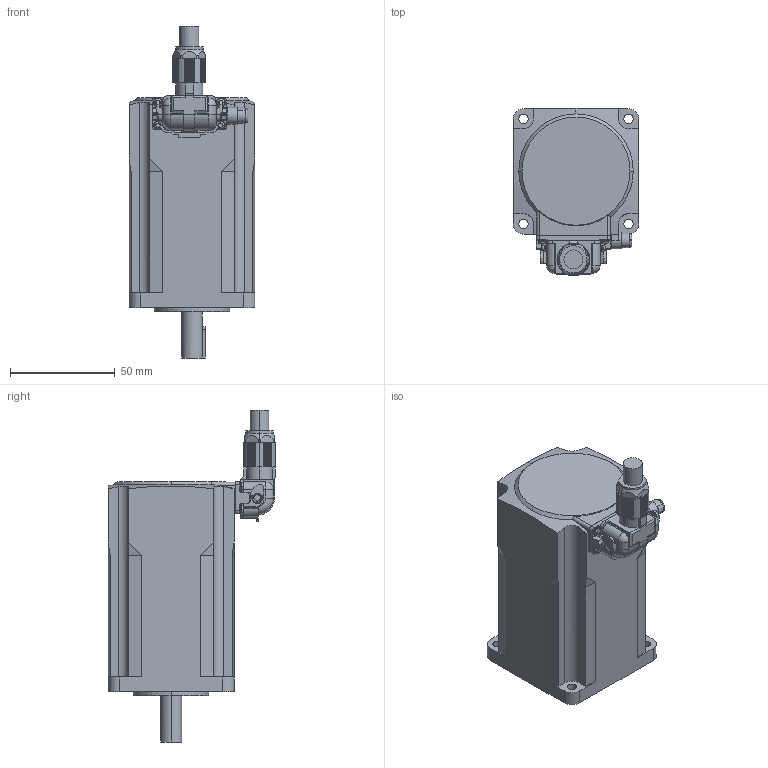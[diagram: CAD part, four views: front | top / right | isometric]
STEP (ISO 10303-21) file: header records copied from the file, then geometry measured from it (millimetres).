
FILE_DESCRIPTION (( 'STEP AP203' ), '1' );
FILE_NAME ('B1535_B.STEP', '2021-04-22T05:29:01', ( 'Windows ユーザー' ), ( '' ), 'SwSTEP 2.0', 'SolidWorks 2017', '' );
FILE_SCHEMA (( 'CONFIG_CONTROL_DESIGN' ));
Length unit declared in the file: millimetre
Products named in the file (1): B1535_B
Bounding box: 60 x 79.9 x 158.1 mm (x, y, z)
Volume: 339498.5 mm3; surface area: 35488.5 mm2
Topology: 1 solids, 1 shells, 585 faces, 1641 edges, 1069 vertices
Faces by surface type: plane 346, cylinder 210, torus 13, cone 12, sphere 4
Entity records: 19184 total; most frequent: CARTESIAN_POINT 3648, DIRECTION 3283, ORIENTED_EDGE 3274, EDGE_CURVE 1637, AXIS2_PLACEMENT_3D 1102, LINE 1079, VECTOR 1079, VERTEX_POINT 1069
